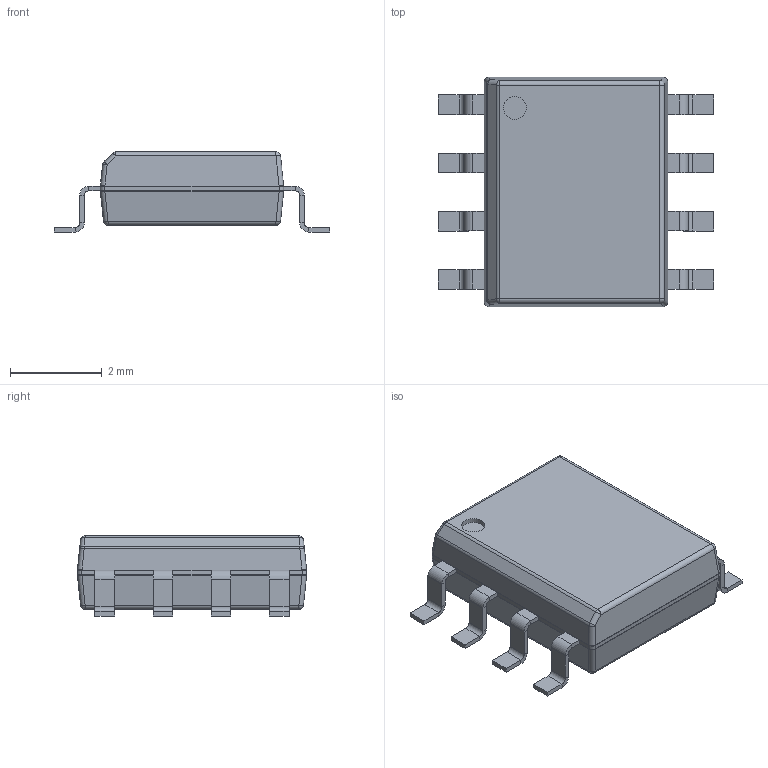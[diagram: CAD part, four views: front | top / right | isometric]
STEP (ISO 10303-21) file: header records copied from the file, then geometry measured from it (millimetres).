
FILE_DESCRIPTION(('Open CASCADE Model'),'2;1');
FILE_NAME('Open CASCADE Shape Model','2019-04-30T22:04:52',('Author'),( 'Open CASCADE'),'Open CASCADE STEP processor 6.8','Open CASCADE 6.8' ,'Unknown');
FILE_SCHEMA(('AUTOMOTIVE_DESIGN_CC2 { 1 2 10303 214 -1 1 5 4 }'));
Length unit declared in the file: millimetre
Products named in the file (5): SOIC127P600X175_HS-9N.step; Open CASCADE STEP translator 6.8 1.1; Body; Open CASCADE STEP translator 6.8 1.2.1; Leader
Assembly tree (11 placements, depth 3):
  SOIC127P600X175_HS-9N.step
    Open CASCADE STEP translator 6.8 1.1
    Body
      Open CASCADE STEP translator 6.8 1.2.1
    Leader  x8
Bounding box: 6 x 5 x 1.75 mm (x, y, z)
Volume: 31.3 mm3; surface area: 79.8 mm2
Topology: 9 solids, 10 shells, 243 faces, 490 edges, 257 vertices
Faces by surface type: plane 161, cylinder 64, sphere 10, bspline 8
Full cylindrical faces by diameter (mm): 0.5 x1
Entity records: 5462 total; most frequent: CARTESIAN_POINT 1961, DIRECTION 585, ORIENTED_EDGE 343, PCURVE 343, DEFINITIONAL_REPRESENTATION 343, LINE 311, VECTOR 311, EDGE_CURVE 172
